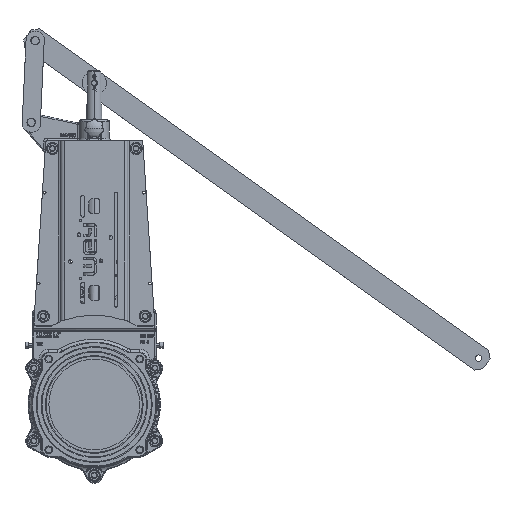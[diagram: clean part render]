
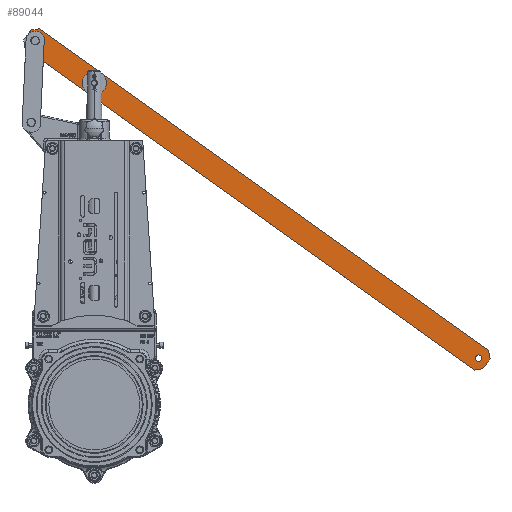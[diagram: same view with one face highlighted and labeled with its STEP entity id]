
A CAD part, top view. The second image highlights one B-rep face of the part: STEP entity #89044.
In plain terms, the highlighted planar face has unit normal (0, 0, 1).
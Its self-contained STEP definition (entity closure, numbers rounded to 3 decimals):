
#461 = EDGE_CURVE ( 'NONE', #32266, #98724, #140896, .T. ) ;
#861 = CARTESIAN_POINT ( 'NONE',  ( -4.269, 533.556, 4.75 ) ) ;
#3487 = DIRECTION ( 'NONE',  ( -0.582, -0.813, 0. ) ) ;
#4307 = ORIENTED_EDGE ( 'NONE', *, *, #96721, .F. ) ;
#4658 = DIRECTION ( 'NONE',  ( -0.987, -0.163, 0. ) ) ;
#6153 = VECTOR ( 'NONE', #24597, 1000. ) ;
#6918 = VERTEX_POINT ( 'NONE', #25363 ) ;
#7612 = CIRCLE ( 'NONE', #139606, 16. ) ;
#8566 = CARTESIAN_POINT ( 'NONE',  ( 641.444, 59.049, 4.75 ) ) ;
#12542 = VECTOR ( 'NONE', #27749, 1000. ) ;
#14336 = AXIS2_PLACEMENT_3D ( 'NONE', #28326, #112646, #40423 ) ;
#14639 = DIRECTION ( 'NONE',  ( 0.813, -0.582, 0. ) ) ;
#14702 = CARTESIAN_POINT ( 'NONE',  ( 0., 530.5, 4.75 ) ) ;
#14859 = DIRECTION ( 'NONE',  ( 0.582, 0.813, 0. ) ) ;
#16323 = CARTESIAN_POINT ( 'NONE',  ( -110.588, 609.66, 4.75 ) ) ;
#17374 = EDGE_CURVE ( 'NONE', #46415, #78427, #34858, .T. ) ;
#19156 = ORIENTED_EDGE ( 'NONE', *, *, #85380, .T. ) ;
#20627 = CARTESIAN_POINT ( 'NONE',  ( 0., 530.5, 4.75 ) ) ;
#24597 = DIRECTION ( 'NONE',  ( -0.163, 0.987, 0. ) ) ;
#24821 = ORIENTED_EDGE ( 'NONE', *, *, #127534, .T. ) ;
#25363 = CARTESIAN_POINT ( 'NONE',  ( -104.767, 617.792, 4.75 ) ) ;
#25786 = FACE_OUTER_BOUND ( 'NONE', #57435, .T. ) ;
#26830 = DIRECTION ( 'NONE',  ( 0.813, -0.582, 0. ) ) ;
#27749 = DIRECTION ( 'NONE',  ( -0.813, 0.582, 0. ) ) ;
#28326 = CARTESIAN_POINT ( 'NONE',  ( 634.254, 76.494, 4.75 ) ) ;
#28738 = LINE ( 'NONE', #41515, #92869 ) ;
#28825 = ORIENTED_EDGE ( 'NONE', *, *, #100776, .T. ) ;
#32266 = VERTEX_POINT ( 'NONE', #32437 ) ;
#32437 = CARTESIAN_POINT ( 'NONE',  ( -84.188, 566.167, 4.75 ) ) ;
#32662 = EDGE_CURVE ( 'NONE', #125369, #50284, #132665, .T. ) ;
#32764 = DIRECTION ( 'NONE',  ( 0.813, -0.582, 0. ) ) ;
#34858 = CIRCLE ( 'NONE', #88409, 5.25 ) ;
#37260 = CARTESIAN_POINT ( 'NONE',  ( 650.774, 89.264, 4.75 ) ) ;
#38860 = CARTESIAN_POINT ( 'NONE',  ( 634.254, 76.494, 4.75 ) ) ;
#39417 = AXIS2_PLACEMENT_3D ( 'NONE', #38860, #123243, #50874 ) ;
#40423 = DIRECTION ( 'NONE',  ( 0.813, -0.582, 0. ) ) ;
#40888 = VECTOR ( 'NONE', #3487, 1000. ) ;
#41515 = CARTESIAN_POINT ( 'NONE',  ( -90.815, 620.102, 4.75 ) ) ;
#41939 = LINE ( 'NONE', #108924, #6153 ) ;
#42619 = EDGE_CURVE ( 'NONE', #78427, #46415, #71707, .T. ) ;
#43703 = PLANE ( 'NONE',  #134343 ) ;
#44195 = DIRECTION ( 'NONE',  ( 0., 0., 1. ) ) ;
#44351 = CARTESIAN_POINT ( 'NONE',  ( 4.269, 527.444, 4.75 ) ) ;
#45447 = EDGE_CURVE ( 'NONE', #124260, #75983, #41939, .T. ) ;
#46415 = VERTEX_POINT ( 'NONE', #861 ) ;
#48565 = EDGE_CURVE ( 'NONE', #58557, #64345, #115376, .T. ) ;
#49054 = EDGE_LOOP ( 'NONE', ( #92761, #119066 ) ) ;
#50062 = DIRECTION ( 'NONE',  ( 0., 0., 1. ) ) ;
#50284 = VERTEX_POINT ( 'NONE', #8566 ) ;
#50874 = DIRECTION ( 'NONE',  ( 0.813, -0.582, 0. ) ) ;
#53928 = FACE_BOUND ( 'NONE', #49054, .T. ) ;
#57435 = EDGE_LOOP ( 'NONE', ( #114867, #88229, #28825, #58123, #73261, #101566, #19156, #24821, #108387, #4307 ) ) ;
#58123 = ORIENTED_EDGE ( 'NONE', *, *, #32662, .T. ) ;
#58557 = VERTEX_POINT ( 'NONE', #135827 ) ;
#64345 = VERTEX_POINT ( 'NONE', #93428 ) ;
#65500 = CARTESIAN_POINT ( 'NONE',  ( -90.815, 620.102, 4.75 ) ) ;
#65908 = CARTESIAN_POINT ( 'NONE',  ( 641.444, 59.049, 4.75 ) ) ;
#66541 = CARTESIAN_POINT ( 'NONE',  ( -97.578, 600.347, 4.75 ) ) ;
#67179 = CARTESIAN_POINT ( 'NONE',  ( -89.282, 459.225, 4.75 ) ) ;
#67479 = CARTESIAN_POINT ( 'NONE',  ( -96.816, 616.329, 4.75 ) ) ;
#71707 = CIRCLE ( 'NONE', #85876, 5.25 ) ;
#72188 = VECTOR ( 'NONE', #78037, 1000. ) ;
#73261 = ORIENTED_EDGE ( 'NONE', *, *, #96807, .T. ) ;
#75560 = CARTESIAN_POINT ( 'NONE',  ( -104.767, 617.792, 4.75 ) ) ;
#75983 = VERTEX_POINT ( 'NONE', #37260 ) ;
#78037 = DIRECTION ( 'NONE',  ( 0.987, 0.163, 0. ) ) ;
#78427 = VERTEX_POINT ( 'NONE', #44351 ) ;
#78705 = DIRECTION ( 'NONE',  ( -0.048, -0.999, 0. ) ) ;
#80430 = VECTOR ( 'NONE', #103664, 1000. ) ;
#85075 = VERTEX_POINT ( 'NONE', #67479 ) ;
#85094 = CARTESIAN_POINT ( 'NONE',  ( 650.774, 89.264, 4.75 ) ) ;
#85380 = EDGE_CURVE ( 'NONE', #75983, #151907, #140796, .T. ) ;
#85876 = AXIS2_PLACEMENT_3D ( 'NONE', #20627, #105004, #32764 ) ;
#86780 = CARTESIAN_POINT ( 'NONE',  ( 627.492, 56.738, 4.75 ) ) ;
#88229 = ORIENTED_EDGE ( 'NONE', *, *, #461, .F. ) ;
#88409 = AXIS2_PLACEMENT_3D ( 'NONE', #14702, #98995, #26830 ) ;
#89044 = ADVANCED_FACE ( 'NONE', ( #118224, #53928, #25786 ), #43703, .T. ) ;
#89369 = EDGE_CURVE ( 'NONE', #64345, #58557, #106697, .T. ) ;
#89712 = CIRCLE ( 'NONE', #97764, 16. ) ;
#91207 = ORIENTED_EDGE ( 'NONE', *, *, #48565, .F. ) ;
#92293 = CARTESIAN_POINT ( 'NONE',  ( 653.085, 75.312, 4.75 ) ) ;
#92761 = ORIENTED_EDGE ( 'NONE', *, *, #17374, .F. ) ;
#92869 = VECTOR ( 'NONE', #4658, 1000. ) ;
#93428 = CARTESIAN_POINT ( 'NONE',  ( 638.523, 73.438, 4.75 ) ) ;
#96721 = EDGE_CURVE ( 'NONE', #85075, #143036, #89712, .T. ) ;
#96807 = EDGE_CURVE ( 'NONE', #50284, #124260, #138825, .T. ) ;
#97764 = AXIS2_PLACEMENT_3D ( 'NONE', #122407, #50062, #134530 ) ;
#98695 = EDGE_CURVE ( 'NONE', #98724, #85075, #7612, .T. ) ;
#98724 = VERTEX_POINT ( 'NONE', #114123 ) ;
#98995 = DIRECTION ( 'NONE',  ( 0., 0., 1. ) ) ;
#100776 = EDGE_CURVE ( 'NONE', #32266, #125369, #141905, .T. ) ;
#101566 = ORIENTED_EDGE ( 'NONE', *, *, #45447, .T. ) ;
#103376 = EDGE_CURVE ( 'NONE', #6918, #143036, #133345, .T. ) ;
#103664 = DIRECTION ( 'NONE',  ( 0.048, 0.999, 0. ) ) ;
#105004 = DIRECTION ( 'NONE',  ( 0., 0., 1. ) ) ;
#106697 = CIRCLE ( 'NONE', #39417, 5.25 ) ;
#108387 = ORIENTED_EDGE ( 'NONE', *, *, #103376, .T. ) ;
#108924 = CARTESIAN_POINT ( 'NONE',  ( 653.085, 75.312, 4.75 ) ) ;
#112646 = DIRECTION ( 'NONE',  ( 0., 0., 1. ) ) ;
#114123 = CARTESIAN_POINT ( 'NONE',  ( -82.33, 605.195, 4.75 ) ) ;
#114867 = ORIENTED_EDGE ( 'NONE', *, *, #98695, .F. ) ;
#115376 = CIRCLE ( 'NONE', #14336, 5.25 ) ;
#116481 = CARTESIAN_POINT ( 'NONE',  ( 655.396, 61.36, 4.75 ) ) ;
#118224 = FACE_BOUND ( 'NONE', #138860, .T. ) ;
#119066 = ORIENTED_EDGE ( 'NONE', *, *, #42619, .F. ) ;
#122407 = CARTESIAN_POINT ( 'NONE',  ( -97.578, 600.347, 4.75 ) ) ;
#123243 = DIRECTION ( 'NONE',  ( 0., 0., 1. ) ) ;
#124260 = VERTEX_POINT ( 'NONE', #92293 ) ;
#125369 = VERTEX_POINT ( 'NONE', #137255 ) ;
#127534 = EDGE_CURVE ( 'NONE', #151907, #6918, #28738, .T. ) ;
#128600 = DIRECTION ( 'NONE',  ( 0.813, -0.582, 0. ) ) ;
#132665 = LINE ( 'NONE', #65908, #72188 ) ;
#133345 = LINE ( 'NONE', #75560, #40888 ) ;
#134343 = AXIS2_PLACEMENT_3D ( 'NONE', #116481, #44195, #128600 ) ;
#134530 = DIRECTION ( 'NONE',  ( -0.048, -0.999, 0. ) ) ;
#135025 = VECTOR ( 'NONE', #14859, 1000. ) ;
#135565 = CARTESIAN_POINT ( 'NONE',  ( 641.444, 59.049, 4.75 ) ) ;
#135827 = CARTESIAN_POINT ( 'NONE',  ( 629.985, 79.549, 4.75 ) ) ;
#137255 = CARTESIAN_POINT ( 'NONE',  ( 627.492, 56.738, 4.75 ) ) ;
#138825 = LINE ( 'NONE', #135565, #135025 ) ;
#138860 = EDGE_LOOP ( 'NONE', ( #91207, #152715 ) ) ;
#139606 = AXIS2_PLACEMENT_3D ( 'NONE', #66541, #151038, #78705 ) ;
#140796 = LINE ( 'NONE', #85094, #12542 ) ;
#140896 = LINE ( 'NONE', #67179, #80430 ) ;
#141905 = LINE ( 'NONE', #86780, #153244 ) ;
#143036 = VERTEX_POINT ( 'NONE', #16323 ) ;
#151038 = DIRECTION ( 'NONE',  ( 0., 0., 1. ) ) ;
#151907 = VERTEX_POINT ( 'NONE', #65500 ) ;
#152715 = ORIENTED_EDGE ( 'NONE', *, *, #89369, .F. ) ;
#153244 = VECTOR ( 'NONE', #14639, 1000. ) ;
